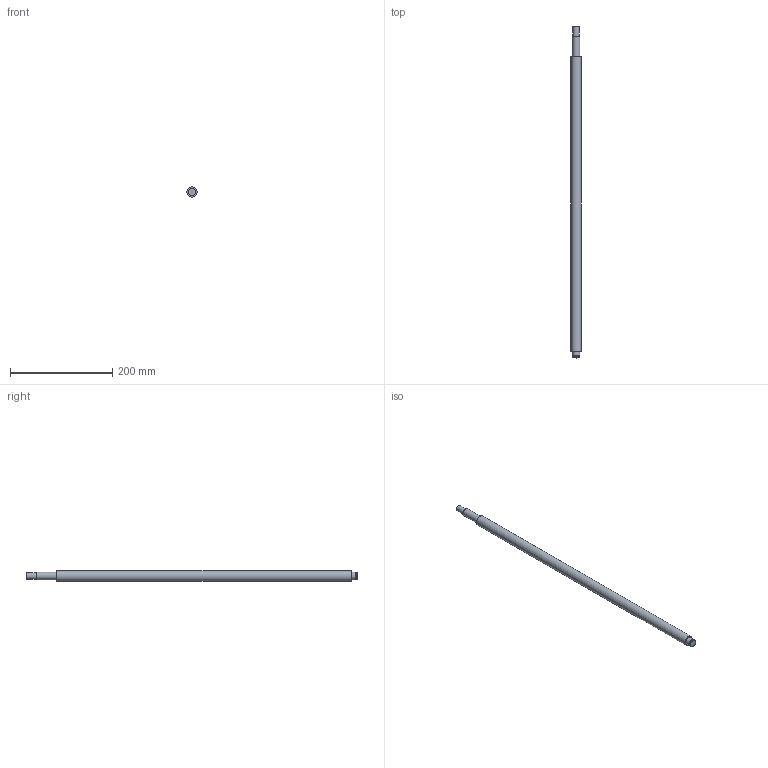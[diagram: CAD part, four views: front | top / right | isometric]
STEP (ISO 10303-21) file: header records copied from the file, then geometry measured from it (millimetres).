
FILE_DESCRIPTION(/* description */ (''),/* implementation_level */ '2;1');
FILE_NAME(/* name */ 'C:\Users\David\Desktop\stepFiles\Profilfuehrung\KUS2010x650.stp',/* time_stamp */ '2018-06-24T15:12:49+02:00',/* author */ ('David'),/* organization */ (''),/* preprocessor_version */ 'ST-DEVELOPER v17',/* originating_system */ 'Autodesk Inventor 2019',/* authorisation */ '');
FILE_SCHEMA (('AUTOMOTIVE_DESIGN { 1 0 10303 214 3 1 1 }'));
Length unit declared in the file: millimetre
Products named in the file (1): SFU2005xvaiabel
Bounding box: 20 x 650 x 20 mm (x, y, z)
Volume: 192868.9 mm3; surface area: 40138 mm2
Topology: 1 solids, 1 shells, 15 faces, 34 edges, 26 vertices
Faces by surface type: plane 7, cylinder 6, cone 2
Full cylindrical faces by diameter (mm): 12 x1, 14.3 x1, 15 x3, 20 x1
Entity records: 493 total; most frequent: DIRECTION 92, CARTESIAN_POINT 76, ORIENTED_EDGE 68, AXIS2_PLACEMENT_3D 42, EDGE_CURVE 34, CIRCLE 26, VERTEX_POINT 26, EDGE_LOOP 20
